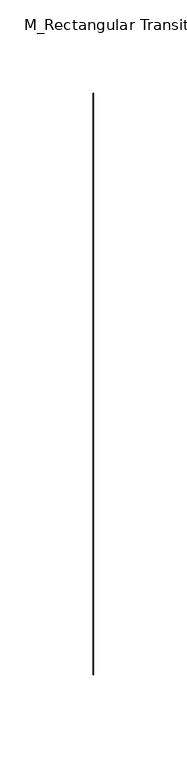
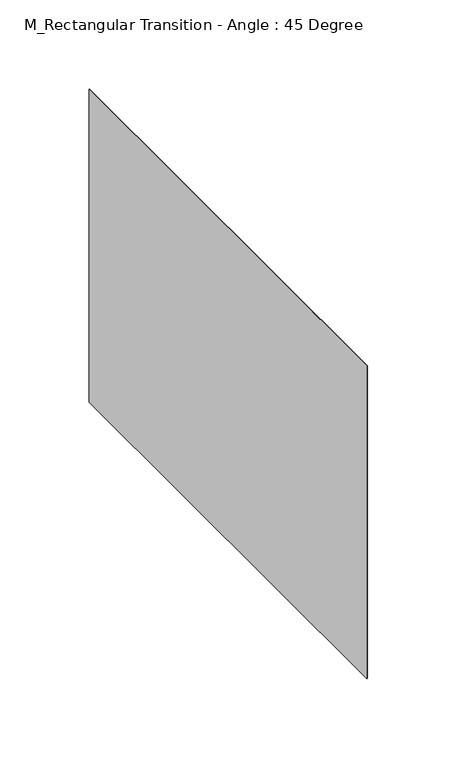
"""IFC4 building model written with IfcOpenShell, lengths in millimetres: duct fitting geometry, M_Rectangular Transition - Angle : 45 Degree."""

from ifc_helpers import new_model, si_unit, origin, place, context, project, spatial, faceted_brep, source, transform, mapped, element, save


def m_rectangular_transition_angle_45_degree_ee93f137(model_context):
    return source(origin(), model_context, "Body", "Brep", [
        faceted_brep([(0.3319499, -156.0, 106.998686), (0.3319499, -156.0, -107.001314), (0.3319499, 156.0, -107.001314), (0.3319499, 156.0, 106.998686), (0.0, -155.9375, 107.1375), (0.0, 155.9375, 107.1375), (0.0, 155.9375, -107.1375), (0.0, -155.9375, -107.1375)], [[[0, 1, 2, 3]], [[4, 5, 6, 7]], [[4, 7, 1, 0]], [[7, 6, 2, 1]], [[6, 5, 3, 2]], [[5, 4, 0, 3]]]),
    ])


if __name__ == "__main__":
    model = new_model("IFC4")
    model_context = context("Model", 3, world=origin())
    ifc_project = project(units=[si_unit("LENGTHUNIT", "METRE", prefix="MILLI")], contexts=[model_context])
    site = spatial("IfcSite", under=ifc_project)
    building = spatial("IfcBuilding", under=site)
    placement = place(None, origin())
    m_rectangular_transition_angle_45_degree_shape = m_rectangular_transition_angle_45_degree_ee93f137(model_context)
    element("IfcDuctFitting", 1, ObjectType="M_Rectangular Transition - Angle : 45 Degree", at=placement, inside=building, context=model_context, shape_type="MappedRepresentation", body=[
        mapped(m_rectangular_transition_angle_45_degree_shape, transform((0.0, 0.0, 0.0), x_axis=(1.0, 0.0, 0.0), y_axis=(0.0, 1.0, 0.0), z_axis=(0.0, 0.0, 1.0))),
    ])
    save(model, "model.ifc")
